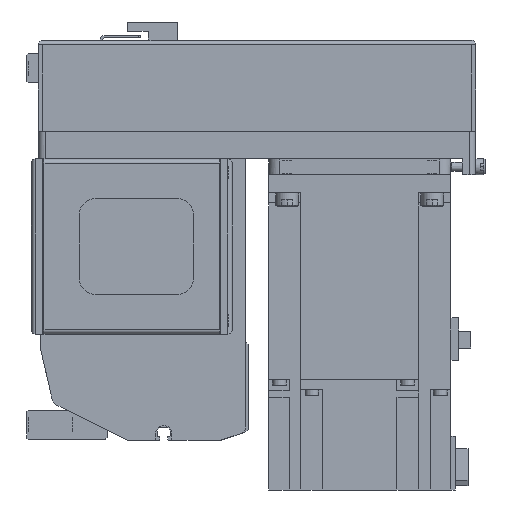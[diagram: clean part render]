
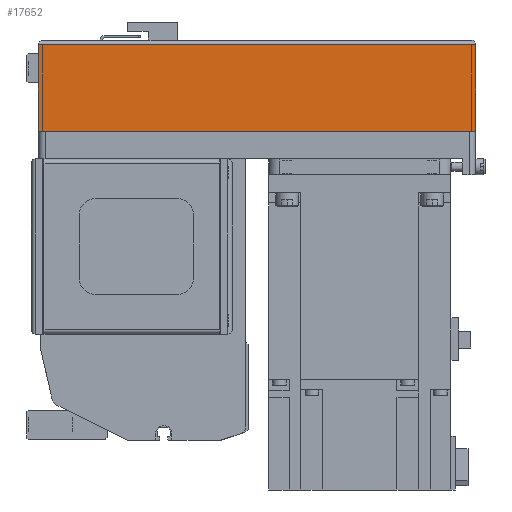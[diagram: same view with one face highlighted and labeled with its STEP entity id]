
A CAD part, left-side view. The second image highlights one B-rep face of the part: STEP entity #17652.
In plain terms, the highlighted planar face has unit normal (-1, 0, 0) as drawn and (0, -1, 0) by its records, which use the part's own axes.
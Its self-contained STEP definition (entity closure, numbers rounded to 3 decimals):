
#2778=ORIENTED_EDGE('',*,*,#7135,.F.);
#2779=ORIENTED_EDGE('',*,*,#7119,.F.);
#2780=ORIENTED_EDGE('',*,*,#7112,.T.);
#2781=ORIENTED_EDGE('',*,*,#7182,.T.);
#7112=EDGE_CURVE('',#9465,#9464,#11272,.T.);
#7119=EDGE_CURVE('',#9465,#9471,#11279,.T.);
#7135=EDGE_CURVE('',#9471,#9485,#11295,.T.);
#7182=EDGE_CURVE('',#9464,#9485,#11316,.T.);
#9464=VERTEX_POINT('',#27119);
#9465=VERTEX_POINT('',#27121);
#9471=VERTEX_POINT('',#27136);
#9485=VERTEX_POINT('',#27169);
#11272=LINE('',#27120,#12908);
#11279=LINE('',#27135,#12915);
#11295=LINE('',#27168,#12931);
#11316=LINE('',#27249,#12952);
#12908=VECTOR('',#21700,1000.);
#12915=VECTOR('',#21711,1000.);
#12931=VECTOR('',#21733,1000.);
#12952=VECTOR('',#21842,1000.);
#14406=EDGE_LOOP('',(#2778,#2779,#2780,#2781));
#15748=FACE_BOUND('',#14406,.T.);
#16921=PLANE('',#18931);
#17652=ADVANCED_FACE('',(#15748),#16921,.T.);
#18931=AXIS2_PLACEMENT_3D('',#27250,#21843,#21844);
#21700=DIRECTION('',(0.,0.,-1.));
#21711=DIRECTION('',(1.,0.,0.));
#21733=DIRECTION('',(0.,0.,-1.));
#21842=DIRECTION('',(1.,0.,0.));
#21843=DIRECTION('',(0.,-1.,0.));
#21844=DIRECTION('',(0.,0.,-1.));
#27119=CARTESIAN_POINT('',(-192.,-40.,-50.));
#27120=CARTESIAN_POINT('',(-192.,-40.,-12.1));
#27121=CARTESIAN_POINT('',(-192.,-40.,-12.1));
#27135=CARTESIAN_POINT('',(-192.,-40.,-12.1));
#27136=CARTESIAN_POINT('',(0.,-40.,-12.1));
#27168=CARTESIAN_POINT('',(0.,-40.,-12.1));
#27169=CARTESIAN_POINT('',(0.,-40.,-50.));
#27249=CARTESIAN_POINT('',(-192.,-40.,-50.));
#27250=CARTESIAN_POINT('',(-192.,-40.,-12.1));
